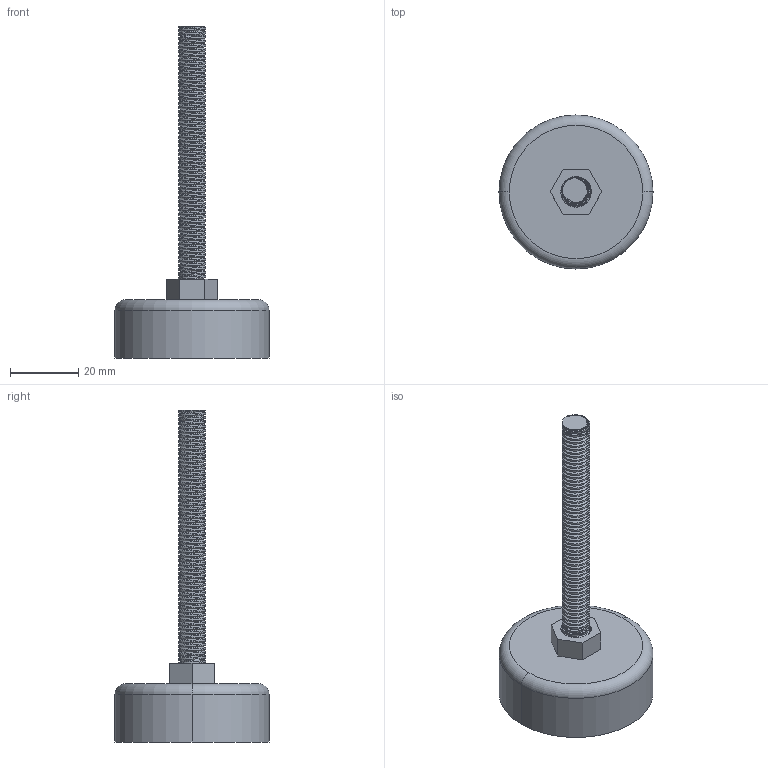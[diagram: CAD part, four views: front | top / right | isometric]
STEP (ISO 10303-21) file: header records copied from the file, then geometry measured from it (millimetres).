
FILE_DESCRIPTION (( 'STEP AP203' ), '1' );
FILE_NAME ('220-CE-UAF-8.STEP', '2015-07-09T09:29:48', ( '' ), ( '' ), 'SwSTEP 2.0', 'SolidWorks 2013', '' );
FILE_SCHEMA (( 'CONFIG_CONTROL_DESIGN' ));
Length unit declared in the file: millimetre
Products named in the file (1): 220-CE-UAF-8
Bounding box: 45 x 45 x 97 mm (x, y, z)
Volume: 31055 mm3; surface area: 8503.8 mm2
Topology: 1 solids, 1 shells, 142 faces, 410 edges, 272 vertices
Faces by surface type: cylinder 122, plane 13, bspline 5, torus 2
Entity records: 12562 total; most frequent: CARTESIAN_POINT 9500, ORIENTED_EDGE 820, DIRECTION 448, EDGE_CURVE 410, VERTEX_POINT 272, AXIS2_PLACEMENT_3D 150, LINE 148, VECTOR 148
